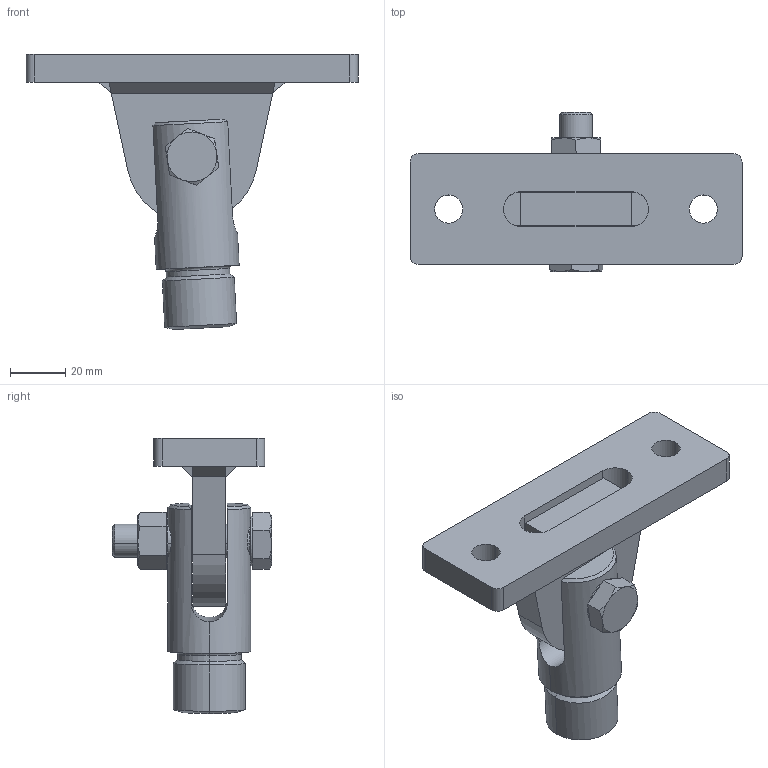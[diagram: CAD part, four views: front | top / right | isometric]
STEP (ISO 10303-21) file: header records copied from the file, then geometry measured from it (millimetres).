
FILE_DESCRIPTION (( 'STEP AP203' ), '1' );
FILE_NAME ('Assembly_for Test.STEP', '2006-12-08T13:11:31', ( 'Sommer Antriebs- und Funktechnik GmbH' ), ( 'Sommer Antriebs- und Funktechnik GmbH' ), 'SwSTEP 2.0', 'SolidWorks 2006303', '' );
FILE_SCHEMA (( 'CONFIG_CONTROL_DESIGN' ));
Length unit declared in the file: millimetre
Products named in the file (5): 14605V000_Sechskantmutter_M12x1,5_Hexagon Nut ISO - 4032 - M12 - W - N; 14521V000_Torbeschlag_twist_XL_Standard<As Machined>; 14520V000_Anbindung_f黵_Schubrohr_Standard; Assembly_for Test; 14604V000_Sechskantschraube_M12x1,5x50_ISO 8765 - M12x1.5 x 50 x 30-N
Assembly tree (4 placements, depth 2):
  Assembly_for Test
    14521V000_Torbeschlag_twist_XL_Standard<As Machined>
    14605V000_Sechskantmutter_M12x1,5_Hexagon Nut ISO - 4032 - M12 - W - N
    14604V000_Sechskantschraube_M12x1,5x50_ISO 8765 - M12x1.5 x 50 x 30-N
    14520V000_Anbindung_f黵_Schubrohr_Standard
Bounding box: 120 x 57.5 x 99.43 mm (x, y, z)
Volume: 112719.8 mm3; surface area: 36532 mm2
Topology: 9 solids, 9 shells, 137 faces, 303 edges, 186 vertices
Faces by surface type: plane 73, cylinder 36, cone 24, torus 4
Entity records: 4608 total; most frequent: CARTESIAN_POINT 1037, DIRECTION 657, ORIENTED_EDGE 606, EDGE_CURVE 303, AXIS2_PLACEMENT_3D 246, VERTEX_POINT 186, VECTOR 165, LINE 165
